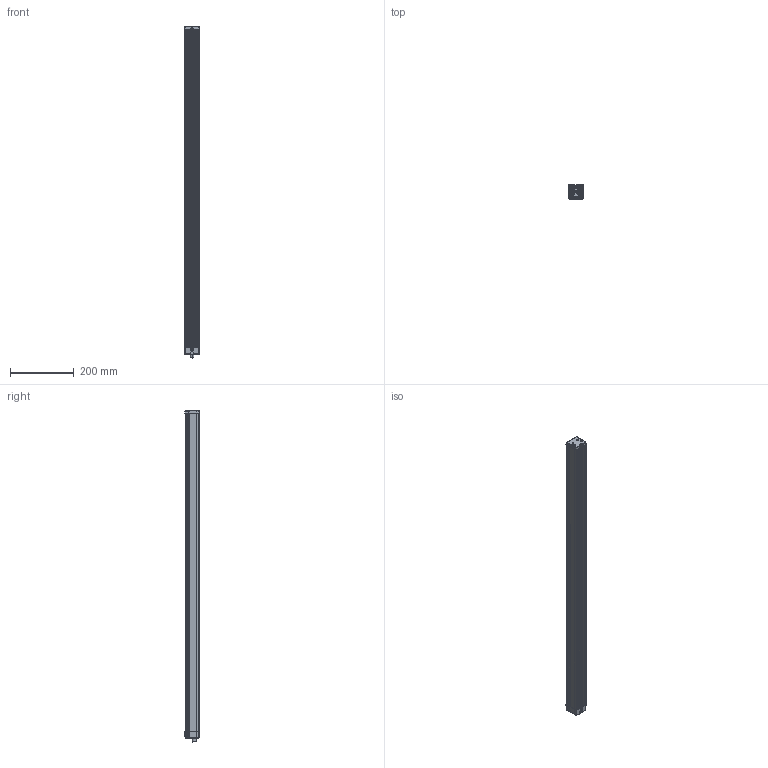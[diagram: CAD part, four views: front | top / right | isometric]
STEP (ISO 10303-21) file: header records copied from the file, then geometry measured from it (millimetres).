
FILE_DESCRIPTION (( 'STEP AP214' ), '1' );
FILE_NAME ('EBAR-C-1000.STEP', '2017-11-07T12:42:03', ( '' ), ( '' ), 'SwSTEP 2.0', 'SolidWorks 2014', '' );
FILE_SCHEMA (( 'AUTOMOTIVE_DESIGN' ));
Length unit declared in the file: millimetre
Products named in the file (162): R22; Pin_1_5; C7; J3; A14054002; Body_1_10; R29; Open CASCADE STEP translator 6.8 1.4.1; Pin_2_8; R15; Body_1_6; C13; Open CASCADE STEP translator 6.8 1.68.1; A14054001; R4; L3; Pin_1; Pin_1_9; C11; C6; R18; J2; R3; L4; Body_1_2; Body_1_11; L10; C5; R19; Open CASCADE STEP translator 6.8 1.67.1; EBAR-C-1000; Open CASCADE STEP translator 6.8 1.14.1; R23; P2; R27; Open CASCADE STEP translator 6.8 1.59.1; Open CASCADE STEP translator 6.8 1.8.1; R21; Pin_2_6; R20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
Assembly tree (213 placements, depth 7):
  EBAR-C-1000
    A14054001
    A14054002
    A14054005
    A14054517
    011843_ASM
      A14054006
      VE80510  x2
    A14054060_ASM
      A14054040_ASM
        1437892_EMBASE_MALE
        A14054027 after modification
      A14054516
      A14054517
      Button Cover for Curve Function
      039875_A Curve_connection_circuit
        Layer_1
        P1
          Open CASCADE STEP translator 6.8 1.2.1
            Body_1
        P2
          Open CASCADE STEP translator 6.8 1.3.1
            Body_1
        U2
          Open CASCADE STEP translator 6.8 1.4.1
            Body_1_2
            Pin_1
        C1
          Open CASCADE STEP translator 6.8 1.5.1
            Body_1_3
            Pin_1_2
            Pin_2
        C3
          Open CASCADE STEP translator 6.8 1.5.1
            Body_1_3
            Pin_1_2
            Pin_2
        C4
          Open CASCADE STEP translator 6.8 1.7.1
            Body_1_4
            Pin_1_3
            Pin_2_2
        C5
          Open CASCADE STEP translator 6.8 1.8.1
            Body_1_5
            Pin_1_4
            Pin_2_3
        C6
          Open CASCADE STEP translator 6.8 1.5.1
            Body_1_3
            Pin_1_2
            Pin_2
        L1
          Open CASCADE STEP translator 6.8 1.10.1
            Body_1_6
            Pin_1_5
            Pin_2_4
        L2
          Open CASCADE STEP translator 6.8 1.11.1
            Body_1_7
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Bounding box: 47.63 x 45 x 1045.05 mm (x, y, z)
Volume: 777934.7 mm3; surface area: 715793 mm2
Topology: 211 solids, 215 shells, 8827 faces, 22387 edges, 13976 vertices
Faces by surface type: plane 3764, cylinder 2377, bspline 2296, cone 326, torus 64
Entity records: 276167 total; most frequent: CARTESIAN_POINT 118635, ORIENTED_EDGE 29980, DIRECTION 23289, EDGE_CURVE 14990, VERTEX_POINT 9330, AXIS2_PLACEMENT_3D 8186, VECTOR 6917, LINE 6917
